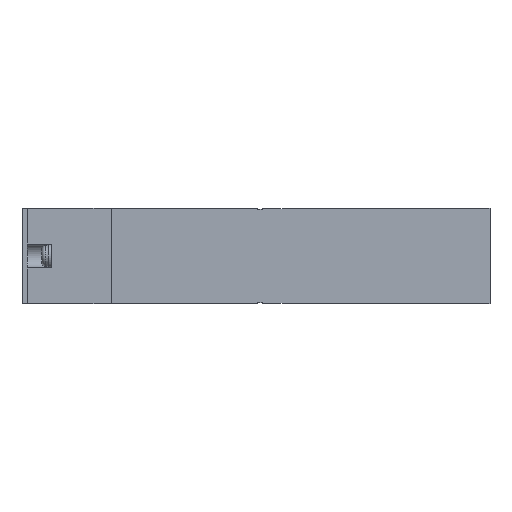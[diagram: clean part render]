
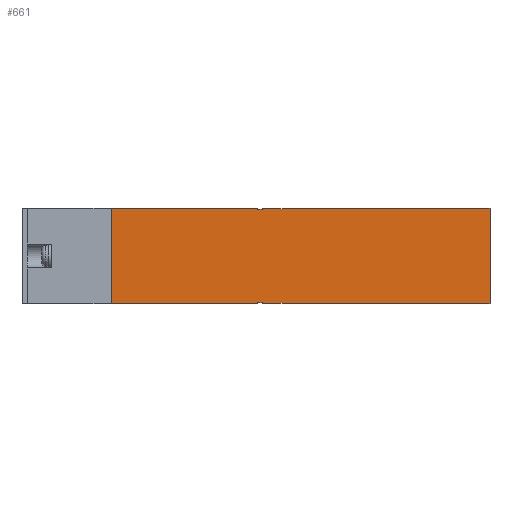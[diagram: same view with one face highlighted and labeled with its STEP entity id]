
A CAD part, front view. The second image highlights one B-rep face of the part: STEP entity #661.
In plain terms, the highlighted planar face has unit normal (0, -1, 0).
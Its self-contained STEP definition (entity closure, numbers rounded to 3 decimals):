
#661=ADVANCED_FACE('',(#1404),#1405,.F.);
#1404=FACE_OUTER_BOUND('',#2181,.T.);
#1405=PLANE('',#2182);
#2181=EDGE_LOOP('',(#4973,#4974,#4975,#4976,#4977,#4978,#4979,#4980,#4981,#4982,#4983,#4984,#4985,#4986,#4987,#4988,#4989,#4990,#4991,#4992,#4993,#4994,#4995,#4996));
#2182=AXIS2_PLACEMENT_3D('',#4997,#4998,#4999);
#4973=ORIENTED_EDGE('',*,*,#6080,.F.);
#4974=ORIENTED_EDGE('',*,*,#5800,.T.);
#4975=ORIENTED_EDGE('',*,*,#5830,.T.);
#4976=ORIENTED_EDGE('',*,*,#5946,.F.);
#4977=ORIENTED_EDGE('',*,*,#5988,.F.);
#4978=ORIENTED_EDGE('',*,*,#6058,.T.);
#4979=ORIENTED_EDGE('',*,*,#5815,.F.);
#4980=ORIENTED_EDGE('',*,*,#5926,.T.);
#4981=ORIENTED_EDGE('',*,*,#5842,.F.);
#4982=ORIENTED_EDGE('',*,*,#5855,.T.);
#4983=ORIENTED_EDGE('',*,*,#6004,.T.);
#4984=ORIENTED_EDGE('',*,*,#6008,.T.);
#4985=ORIENTED_EDGE('',*,*,#6033,.T.);
#4986=ORIENTED_EDGE('',*,*,#6088,.F.);
#4987=ORIENTED_EDGE('',*,*,#6075,.T.);
#4988=ORIENTED_EDGE('',*,*,#5949,.F.);
#4989=ORIENTED_EDGE('',*,*,#6066,.T.);
#4990=ORIENTED_EDGE('',*,*,#5796,.T.);
#4991=ORIENTED_EDGE('',*,*,#6052,.T.);
#4992=ORIENTED_EDGE('',*,*,#6079,.T.);
#4993=ORIENTED_EDGE('',*,*,#5958,.T.);
#4994=ORIENTED_EDGE('',*,*,#5874,.F.);
#4995=ORIENTED_EDGE('',*,*,#6069,.F.);
#4996=ORIENTED_EDGE('',*,*,#5915,.F.);
#4997=CARTESIAN_POINT('',(18.6,0.0,10.0));
#4998=DIRECTION('',(-0.0,1.0,0.0));
#4999=DIRECTION('',(1.0,0.0,0.0));
#5796=EDGE_CURVE('',#7143,#7141,#7144,.T.);
#5800=EDGE_CURVE('',#7136,#7149,#7151,.T.);
#5815=EDGE_CURVE('',#7179,#7175,#7181,.T.);
#5830=EDGE_CURVE('',#7149,#7208,#7210,.T.);
#5842=EDGE_CURVE('',#7232,#7234,#7235,.T.);
#5855=EDGE_CURVE('',#7232,#7258,#7260,.T.);
#5874=EDGE_CURVE('',#7291,#7286,#7293,.T.);
#5915=EDGE_CURVE('',#7365,#7368,#7369,.T.);
#5926=EDGE_CURVE('',#7179,#7234,#7387,.T.);
#5946=EDGE_CURVE('',#7418,#7208,#7419,.T.);
#5949=EDGE_CURVE('',#7422,#7424,#7425,.T.);
#5958=EDGE_CURVE('',#7431,#7286,#7440,.T.);
#5988=EDGE_CURVE('',#7487,#7418,#7489,.T.);
#6004=EDGE_CURVE('',#7258,#7511,#7513,.T.);
#6008=EDGE_CURVE('',#7511,#7517,#7519,.T.);
#6033=EDGE_CURVE('',#7517,#7555,#7557,.T.);
#6052=EDGE_CURVE('',#7141,#7584,#7585,.T.);
#6058=EDGE_CURVE('',#7487,#7175,#7591,.T.);
#6066=EDGE_CURVE('',#7422,#7143,#7602,.T.);
#6069=EDGE_CURVE('',#7368,#7291,#7605,.T.);
#6075=EDGE_CURVE('',#7612,#7424,#7613,.T.);
#6079=EDGE_CURVE('',#7584,#7431,#7617,.T.);
#6080=EDGE_CURVE('',#7136,#7365,#7618,.T.);
#6088=EDGE_CURVE('',#7612,#7555,#7626,.T.);
#7136=VERTEX_POINT('',#9324);
#7141=VERTEX_POINT('',#9331);
#7143=VERTEX_POINT('',#9334);
#7144=LINE('',#9335,#9336);
#7149=VERTEX_POINT('',#9343);
#7151=LINE('',#9346,#9347);
#7175=VERTEX_POINT('',#9382);
#7179=VERTEX_POINT('',#9388);
#7181=LINE('',#9391,#9392);
#7208=VERTEX_POINT('',#9432);
#7210=LINE('',#9435,#9436);
#7232=VERTEX_POINT('',#9467);
#7234=VERTEX_POINT('',#9470);
#7235=LINE('',#9471,#9472);
#7258=VERTEX_POINT('',#9506);
#7260=LINE('',#9509,#9510);
#7286=VERTEX_POINT('',#9545);
#7291=VERTEX_POINT('',#9552);
#7293=LINE('',#9555,#9556);
#7365=VERTEX_POINT('',#9664);
#7368=VERTEX_POINT('',#9668);
#7369=LINE('',#9669,#9670);
#7387=LINE('',#9698,#9699);
#7418=VERTEX_POINT('',#9772);
#7419=LINE('',#9773,#9774);
#7422=VERTEX_POINT('',#9778);
#7424=VERTEX_POINT('',#9781);
#7425=LINE('',#9782,#9783);
#7431=VERTEX_POINT('',#9792);
#7440=LINE('',#9806,#9807);
#7487=VERTEX_POINT('',#9878);
#7489=LINE('',#9881,#9882);
#7511=VERTEX_POINT('',#9913);
#7513=LINE('',#9916,#9917);
#7517=VERTEX_POINT('',#9923);
#7519=LINE('',#9926,#9927);
#7555=VERTEX_POINT('',#9986);
#7557=LINE('',#9989,#9990);
#7584=VERTEX_POINT('',#10031);
#7585=LINE('',#10032,#10033);
#7591=LINE('',#10044,#10045);
#7602=LINE('',#10063,#10064);
#7605=LINE('',#10069,#10070);
#7612=VERTEX_POINT('',#10082);
#7613=LINE('',#10083,#10084);
#7617=LINE('',#10090,#10091);
#7618=LINE('',#10092,#10093);
#7626=LINE('',#10128,#10129);
#9324=CARTESIAN_POINT('',(50.1,0.0,9.9));
#9331=CARTESIAN_POINT('',(50.1,0.0,-9.9));
#9334=CARTESIAN_POINT('',(50.1,0.0,-9.8));
#9335=CARTESIAN_POINT('',(50.1,0.0,10.0));
#9336=VECTOR('',#10963,1.0);
#9343=CARTESIAN_POINT('',(50.1,0.0,9.8));
#9346=CARTESIAN_POINT('',(50.1,0.0,10.0));
#9347=VECTOR('',#10967,1.0);
#9382=CARTESIAN_POINT('',(44.1,0.0,10.0));
#9388=CARTESIAN_POINT('',(35.1,0.0,10.0));
#9391=CARTESIAN_POINT('',(18.6,0.0,10.0));
#9392=VECTOR('',#10982,1.0);
#9432=CARTESIAN_POINT('',(49.1,0.0,9.8));
#9435=CARTESIAN_POINT('',(18.6,0.0,9.8));
#9436=VECTOR('',#10997,1.0);
#9467=CARTESIAN_POINT('',(18.6,0.0,9.9));
#9470=CARTESIAN_POINT('',(35.1,0.0,9.9));
#9471=CARTESIAN_POINT('',(18.6,0.0,9.9));
#9472=VECTOR('',#11011,1.0);
#9506=CARTESIAN_POINT('',(18.6,0.0,-9.9));
#9509=CARTESIAN_POINT('',(18.6,0.0,10.0));
#9510=VECTOR('',#11024,1.0);
#9545=CARTESIAN_POINT('',(97.6,0.0,-10.0));
#9552=CARTESIAN_POINT('',(97.6,0.0,10.0));
#9555=CARTESIAN_POINT('',(97.6,0.0,10.0));
#9556=VECTOR('',#11055,1.0);
#9664=CARTESIAN_POINT('',(55.1,0.0,9.9));
#9668=CARTESIAN_POINT('',(55.1,0.0,10.0));
#9669=CARTESIAN_POINT('',(55.1,0.0,9.9));
#9670=VECTOR('',#11099,1.0);
#9698=CARTESIAN_POINT('',(35.1,0.0,10.1));
#9699=VECTOR('',#11110,1.0);
#9772=CARTESIAN_POINT('',(49.1,0.0,9.9));
#9773=CARTESIAN_POINT('',(49.1,0.0,10.0));
#9774=VECTOR('',#11135,1.0);
#9778=CARTESIAN_POINT('',(49.1,0.0,-9.8));
#9781=CARTESIAN_POINT('',(49.1,0.0,-9.9));
#9782=CARTESIAN_POINT('',(49.1,0.0,10.0));
#9783=VECTOR('',#11138,1.0);
#9792=CARTESIAN_POINT('',(55.1,0.0,-10.0));
#9806=CARTESIAN_POINT('',(18.6,0.0,-10.0));
#9807=VECTOR('',#11147,1.0);
#9878=CARTESIAN_POINT('',(44.1,0.0,9.9));
#9881=CARTESIAN_POINT('',(44.1,0.0,9.9));
#9882=VECTOR('',#11185,1.0);
#9913=CARTESIAN_POINT('',(35.1,0.0,-9.9));
#9916=CARTESIAN_POINT('',(18.6,0.0,-9.9));
#9917=VECTOR('',#11211,1.0);
#9923=CARTESIAN_POINT('',(35.1,0.0,-10.0));
#9926=CARTESIAN_POINT('',(35.1,0.0,-9.9));
#9927=VECTOR('',#11215,1.0);
#9986=CARTESIAN_POINT('',(44.1,0.0,-10.0));
#9989=CARTESIAN_POINT('',(18.6,0.0,-10.0));
#9990=VECTOR('',#11240,1.0);
#10031=CARTESIAN_POINT('',(55.1,0.0,-9.9));
#10032=CARTESIAN_POINT('',(44.1,0.0,-9.9));
#10033=VECTOR('',#11267,1.0);
#10044=CARTESIAN_POINT('',(44.1,0.0,9.9));
#10045=VECTOR('',#11273,1.0);
#10063=CARTESIAN_POINT('',(18.6,0.0,-9.8));
#10064=VECTOR('',#11281,1.0);
#10069=CARTESIAN_POINT('',(18.6,0.0,10.0));
#10070=VECTOR('',#11284,1.0);
#10082=CARTESIAN_POINT('',(44.1,0.0,-9.9));
#10083=CARTESIAN_POINT('',(44.1,0.0,-9.9));
#10084=VECTOR('',#11290,1.0);
#10090=CARTESIAN_POINT('',(55.1,0.0,-9.9));
#10091=VECTOR('',#11296,1.0);
#10092=CARTESIAN_POINT('',(44.1,0.0,9.9));
#10093=VECTOR('',#11297,1.0);
#10128=CARTESIAN_POINT('',(44.1,0.0,-9.9));
#10129=VECTOR('',#11308,1.0);
#10963=DIRECTION('',(0.0,0.0,-1.0));
#10967=DIRECTION('',(0.0,0.0,-1.0));
#10982=DIRECTION('',(1.0,0.0,0.0));
#10997=DIRECTION('',(-1.0,0.0,0.0));
#11011=DIRECTION('',(1.0,0.0,0.0));
#11024=DIRECTION('',(0.0,0.0,-1.0));
#11055=DIRECTION('',(0.0,0.0,-1.0));
#11099=DIRECTION('',(0.0,0.0,1.0));
#11110=DIRECTION('',(0.0,0.0,-1.0));
#11135=DIRECTION('',(0.0,0.0,-1.0));
#11138=DIRECTION('',(0.0,0.0,-1.0));
#11147=DIRECTION('',(1.0,0.0,0.0));
#11185=DIRECTION('',(1.0,0.0,0.0));
#11211=DIRECTION('',(1.0,0.0,0.0));
#11215=DIRECTION('',(0.0,0.0,-1.0));
#11240=DIRECTION('',(1.0,0.0,0.0));
#11267=DIRECTION('',(1.0,0.0,0.0));
#11273=DIRECTION('',(0.0,0.0,1.0));
#11281=DIRECTION('',(1.0,0.0,0.0));
#11284=DIRECTION('',(1.0,0.0,0.0));
#11290=DIRECTION('',(1.0,0.0,0.0));
#11296=DIRECTION('',(0.0,0.0,-1.0));
#11297=DIRECTION('',(1.0,0.0,0.0));
#11308=DIRECTION('',(0.0,0.0,-1.0));
